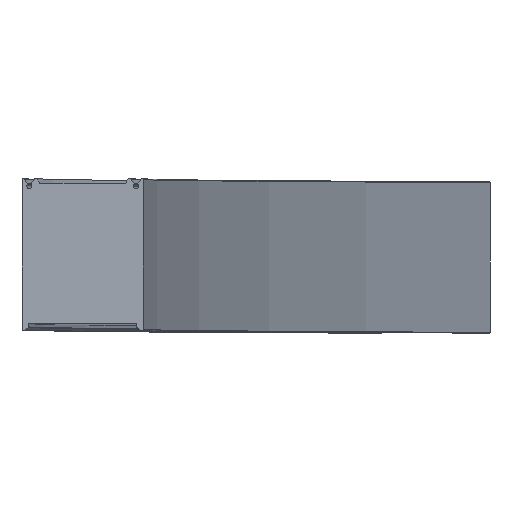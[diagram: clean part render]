
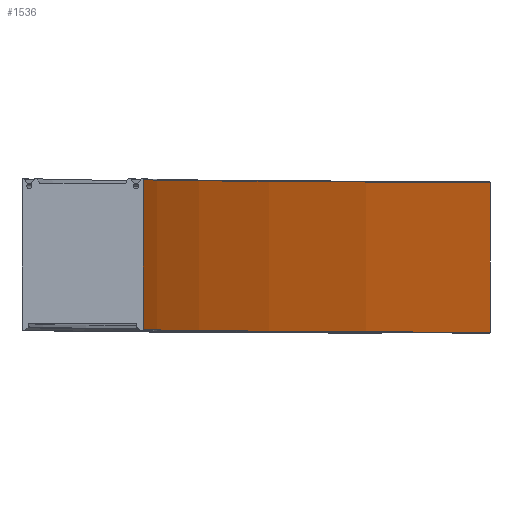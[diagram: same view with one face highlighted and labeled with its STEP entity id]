
A CAD part, top view. The second image highlights one B-rep face of the part: STEP entity #1536.
In plain terms, the highlighted cylindrical face has radius 2861.9 mm (diameter 5723.8 mm), a partial arc.
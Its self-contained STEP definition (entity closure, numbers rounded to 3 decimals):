
#35 = VECTOR ( 'NONE', #1573, 1000. ) ;
#57 = EDGE_CURVE ( 'NONE', #1441, #981, #549, .T. ) ;
#92 = CIRCLE ( 'NONE', #429, 2861.9 ) ;
#102 = DIRECTION ( 'NONE',  ( -1., 0., 0. ) ) ;
#243 = EDGE_CURVE ( 'NONE', #1441, #891, #703, .T. ) ;
#325 = ORIENTED_EDGE ( 'NONE', *, *, #243, .F. ) ;
#353 = AXIS2_PLACEMENT_3D ( 'NONE', #858, #1008, #1428 ) ;
#394 = LINE ( 'NONE', #1426, #35 ) ;
#417 = EDGE_LOOP ( 'NONE', ( #651, #325, #1002, #1161 ) ) ;
#429 = AXIS2_PLACEMENT_3D ( 'NONE', #1132, #977, #102 ) ;
#546 = CARTESIAN_POINT ( 'NONE',  ( 255.949, 0.5, -1095.202 ) ) ;
#549 = CIRCLE ( 'NONE', #825, 2861.9 ) ;
#564 = CARTESIAN_POINT ( 'NONE',  ( 38.1, 94.6, 0. ) ) ;
#620 = CARTESIAN_POINT ( 'NONE',  ( 255.949, 94.6, -1095.202 ) ) ;
#651 = ORIENTED_EDGE ( 'NONE', *, *, #715, .F. ) ;
#703 = LINE ( 'NONE', #564, #965 ) ;
#715 = EDGE_CURVE ( 'NONE', #891, #1565, #92, .T. ) ;
#825 = AXIS2_PLACEMENT_3D ( 'NONE', #1424, #954, #960 ) ;
#833 = CARTESIAN_POINT ( 'NONE',  ( 38.1, 0.5, 0. ) ) ;
#858 = CARTESIAN_POINT ( 'NONE',  ( 2900., 0., 0. ) ) ;
#891 = VERTEX_POINT ( 'NONE', #1378 ) ;
#919 = CYLINDRICAL_SURFACE ( 'NONE', #353, 2861.9 ) ;
#954 = DIRECTION ( 'NONE',  ( 0., -1., 0. ) ) ;
#960 = DIRECTION ( 'NONE',  ( -1., 0., 0. ) ) ;
#965 = VECTOR ( 'NONE', #1316, 1000. ) ;
#977 = DIRECTION ( 'NONE',  ( 0., -1., 0. ) ) ;
#981 = VERTEX_POINT ( 'NONE', #546 ) ;
#1002 = ORIENTED_EDGE ( 'NONE', *, *, #57, .T. ) ;
#1008 = DIRECTION ( 'NONE',  ( 0., -1., 0. ) ) ;
#1020 = EDGE_CURVE ( 'NONE', #981, #1565, #394, .T. ) ;
#1132 = CARTESIAN_POINT ( 'NONE',  ( 2900., 94.6, 0. ) ) ;
#1161 = ORIENTED_EDGE ( 'NONE', *, *, #1020, .T. ) ;
#1316 = DIRECTION ( 'NONE',  ( 0., 1., 0. ) ) ;
#1378 = CARTESIAN_POINT ( 'NONE',  ( 38.1, 94.6, 0. ) ) ;
#1424 = CARTESIAN_POINT ( 'NONE',  ( 2900., 0.5, 0. ) ) ;
#1426 = CARTESIAN_POINT ( 'NONE',  ( 255.949, 94.6, -1095.202 ) ) ;
#1428 = DIRECTION ( 'NONE',  ( 0., 0., -1. ) ) ;
#1441 = VERTEX_POINT ( 'NONE', #833 ) ;
#1536 = ADVANCED_FACE ( 'NONE', ( #1607 ), #919, .F. ) ;
#1565 = VERTEX_POINT ( 'NONE', #620 ) ;
#1573 = DIRECTION ( 'NONE',  ( 0., 1., 0. ) ) ;
#1607 = FACE_OUTER_BOUND ( 'NONE', #417, .T. ) ;
